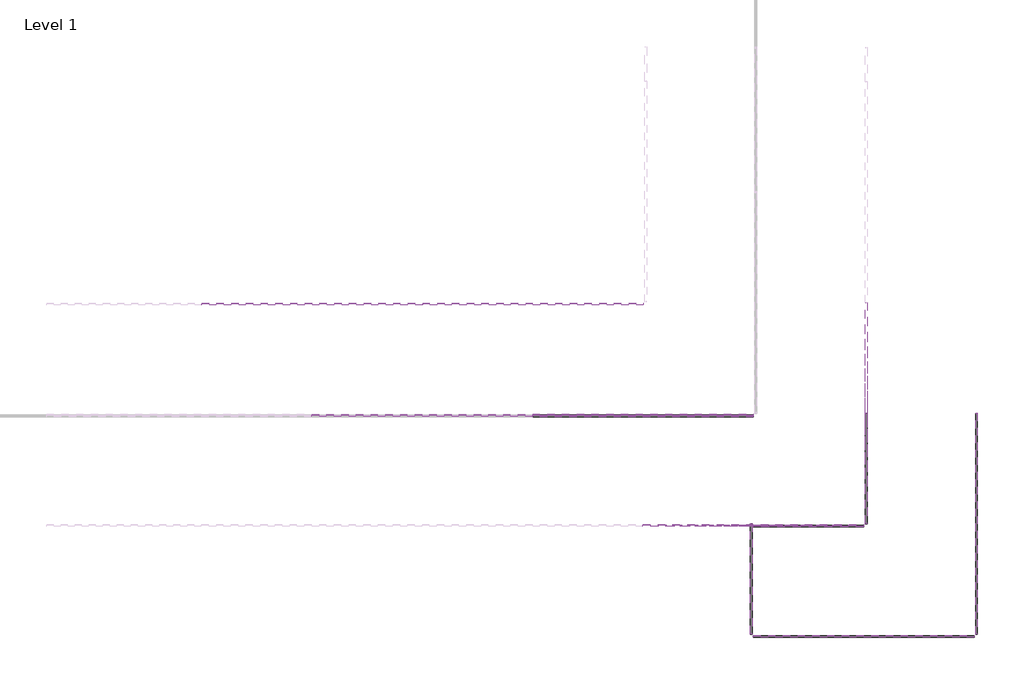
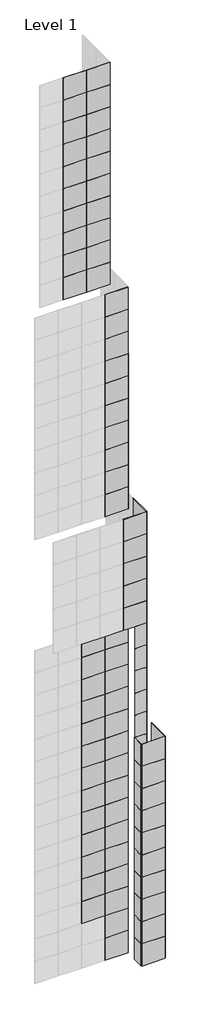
# One storey, part 6 of 15: 135 plates.
"""IFC4 building model written with IfcOpenShell, lengths in millimetres."""

from ifc_helpers import new_model, si_unit, origin, place, context, project, spatial, transform, mapped, element, save
from components import system_panel_glazed_9c75bc08, system_panel_glazed_0a0842ec, system_panel_glazed_aa64d645, system_panel_glazed_b248394d

model = new_model("IFC4")

# Units and contexts
model_context = context("Model", 3, world=origin())
ifc_project = project(units=[si_unit("LENGTHUNIT", "METRE", prefix="MILLI")], contexts=[model_context])

# Site, building, storey
site = spatial("IfcSite", under=ifc_project)
building = spatial("IfcBuilding", under=site)
storey = spatial("IfcBuildingStorey", under=building, Name="Level 1", Elevation=0.0)

# Plates
placement = place(None, origin())
system_panel_glazed_shape = system_panel_glazed_9c75bc08(model_context)
element("IfcPlate", 1, ObjectType="System Panel : Glazed", at=placement, inside=storey, context=model_context, shape_type="MappedRepresentation", body=[
    mapped(system_panel_glazed_shape, transform((51834.2903978, -4602.9095598, 0.0), x_axis=(0.0, 1.0, 0.0), y_axis=(-1.0, 0.0, 0.0), z_axis=(0.0, 0.0, 1.0))),
])
element("IfcPlate", 2, ObjectType="System Panel : Glazed", at=placement, inside=storey, context=model_context, shape_type="MappedRepresentation", body=[
    mapped(system_panel_glazed_shape, transform((51834.2903978, -4602.9095598, 3048.0), x_axis=(0.0, 1.0, 0.0), y_axis=(-1.0, 0.0, 0.0), z_axis=(0.0, 0.0, 1.0))),
])
element("IfcPlate", 3, ObjectType="System Panel : Glazed", at=placement, inside=storey, context=model_context, shape_type="MappedRepresentation", body=[
    mapped(system_panel_glazed_shape, transform((51834.2903978, -4602.9095598, 6096.0), x_axis=(0.0, 1.0, 0.0), y_axis=(-1.0, 0.0, 0.0), z_axis=(0.0, 0.0, 1.0))),
])
element("IfcPlate", 4, ObjectType="System Panel : Glazed", at=placement, inside=storey, context=model_context, shape_type="MappedRepresentation", body=[
    mapped(system_panel_glazed_shape, transform((51834.2903978, -4602.9095598, 9144.0), x_axis=(0.0, 1.0, 0.0), y_axis=(-1.0, 0.0, 0.0), z_axis=(0.0, 0.0, 1.0))),
])
element("IfcPlate", 5, ObjectType="System Panel : Glazed", at=placement, inside=storey, context=model_context, shape_type="MappedRepresentation", body=[
    mapped(system_panel_glazed_shape, transform((51834.2903978, -4602.9095598, 12192.0), x_axis=(0.0, 1.0, 0.0), y_axis=(-1.0, 0.0, 0.0), z_axis=(0.0, 0.0, 1.0))),
])
element("IfcPlate", 6, ObjectType="System Panel : Glazed", at=placement, inside=storey, context=model_context, shape_type="MappedRepresentation", body=[
    mapped(system_panel_glazed_shape, transform((51834.2903978, -4602.9095598, 15240.0), x_axis=(0.0, 1.0, 0.0), y_axis=(-1.0, 0.0, 0.0), z_axis=(0.0, 0.0, 1.0))),
])
element("IfcPlate", 7, ObjectType="System Panel : Glazed", at=placement, inside=storey, context=model_context, shape_type="MappedRepresentation", body=[
    mapped(system_panel_glazed_shape, transform((51834.2903978, -4602.9095598, 18288.0), x_axis=(0.0, 1.0, 0.0), y_axis=(-1.0, 0.0, 0.0), z_axis=(0.0, 0.0, 1.0))),
])
element("IfcPlate", 8, ObjectType="System Panel : Glazed", at=placement, inside=storey, context=model_context, shape_type="MappedRepresentation", body=[
    mapped(system_panel_glazed_shape, transform((51834.2903978, -4602.9095598, 21336.0), x_axis=(0.0, 1.0, 0.0), y_axis=(-1.0, 0.0, 0.0), z_axis=(0.0, 0.0, 1.0))),
])
element("IfcPlate", 9, ObjectType="System Panel : Glazed", at=placement, inside=storey, context=model_context, shape_type="MappedRepresentation", body=[
    mapped(system_panel_glazed_shape, transform((51834.2903978, -4602.9095598, 24384.0), x_axis=(0.0, 1.0, 0.0), y_axis=(-1.0, 0.0, 0.0), z_axis=(0.0, 0.0, 1.0))),
])
element("IfcPlate", 10, ObjectType="System Panel : Glazed", at=placement, inside=storey, context=model_context, shape_type="MappedRepresentation", body=[
    mapped(system_panel_glazed_shape, transform((51834.2903978, -4602.9095598, 27432.0), x_axis=(0.0, 1.0, 0.0), y_axis=(-1.0, 0.0, 0.0), z_axis=(0.0, 0.0, 1.0))),
])
element("IfcPlate", 11, ObjectType="System Panel : Glazed", at=placement, inside=storey, context=model_context, shape_type="MappedRepresentation", body=[
    mapped(system_panel_glazed_shape, transform((51834.2903978, -4602.9095598, 30480.0), x_axis=(0.0, 1.0, 0.0), y_axis=(-1.0, 0.0, 0.0), z_axis=(0.0, 0.0, 1.0))),
])
element("IfcPlate", 12, ObjectType="System Panel : Glazed", at=placement, inside=storey, context=model_context, shape_type="MappedRepresentation", body=[
    mapped(system_panel_glazed_shape, transform((51834.2903978, -4602.9095598, 33528.0), x_axis=(0.0, 1.0, 0.0), y_axis=(-1.0, 0.0, 0.0), z_axis=(0.0, 0.0, 1.0))),
])
element("IfcPlate", 13, ObjectType="System Panel : Glazed", at=placement, inside=storey, context=model_context, shape_type="MappedRepresentation", body=[
    mapped(system_panel_glazed_shape, transform((51834.2903978, -4602.9095598, 36576.0), x_axis=(0.0, 1.0, 0.0), y_axis=(-1.0, 0.0, 0.0), z_axis=(0.0, 0.0, 1.0))),
])
element("IfcPlate", 14, ObjectType="System Panel : Glazed", at=placement, inside=storey, context=model_context, shape_type="MappedRepresentation", body=[
    mapped(system_panel_glazed_shape, transform((51834.2903978, -4602.9095598, 39624.0), x_axis=(0.0, 1.0, 0.0), y_axis=(-1.0, 0.0, 0.0), z_axis=(0.0, 0.0, 1.0))),
])
element("IfcPlate", 15, ObjectType="System Panel : Glazed", at=placement, inside=storey, context=model_context, shape_type="MappedRepresentation", body=[
    mapped(system_panel_glazed_shape, transform((51834.2903978, -4602.9095598, 42672.0), x_axis=(0.0, 1.0, 0.0), y_axis=(-1.0, 0.0, 0.0), z_axis=(0.0, 0.0, 1.0))),
])
element("IfcPlate", 16, ObjectType="System Panel : Glazed", at=placement, inside=storey, context=model_context, shape_type="MappedRepresentation", body=[
    mapped(system_panel_glazed_shape, transform((51072.2903978, -5364.9095598, 0.0), x_axis=(1.0, 0.0, 0.0), y_axis=(0.0, 1.0, 0.0), z_axis=(0.0, 0.0, 1.0))),
])
element("IfcPlate", 17, ObjectType="System Panel : Glazed", at=placement, inside=storey, context=model_context, shape_type="MappedRepresentation", body=[
    mapped(system_panel_glazed_shape, transform((51072.2903978, -5364.9095598, 3048.0), x_axis=(1.0, 0.0, 0.0), y_axis=(0.0, 1.0, 0.0), z_axis=(0.0, 0.0, 1.0))),
])
element("IfcPlate", 18, ObjectType="System Panel : Glazed", at=placement, inside=storey, context=model_context, shape_type="MappedRepresentation", body=[
    mapped(system_panel_glazed_shape, transform((51072.2903978, -5364.9095598, 6096.0), x_axis=(1.0, 0.0, 0.0), y_axis=(0.0, 1.0, 0.0), z_axis=(0.0, 0.0, 1.0))),
])
element("IfcPlate", 19, ObjectType="System Panel : Glazed", at=placement, inside=storey, context=model_context, shape_type="MappedRepresentation", body=[
    mapped(system_panel_glazed_shape, transform((51072.2903978, -5364.9095598, 9144.0), x_axis=(1.0, 0.0, 0.0), y_axis=(0.0, 1.0, 0.0), z_axis=(0.0, 0.0, 1.0))),
])
element("IfcPlate", 20, ObjectType="System Panel : Glazed", at=placement, inside=storey, context=model_context, shape_type="MappedRepresentation", body=[
    mapped(system_panel_glazed_shape, transform((51072.2903978, -5364.9095598, 12192.0), x_axis=(1.0, 0.0, 0.0), y_axis=(0.0, 1.0, 0.0), z_axis=(0.0, 0.0, 1.0))),
])
element("IfcPlate", 21, ObjectType="System Panel : Glazed", at=placement, inside=storey, context=model_context, shape_type="MappedRepresentation", body=[
    mapped(system_panel_glazed_shape, transform((51072.2903978, -5364.9095598, 15240.0), x_axis=(1.0, 0.0, 0.0), y_axis=(0.0, 1.0, 0.0), z_axis=(0.0, 0.0, 1.0))),
])
element("IfcPlate", 22, ObjectType="System Panel : Glazed", at=placement, inside=storey, context=model_context, shape_type="MappedRepresentation", body=[
    mapped(system_panel_glazed_shape, transform((51072.2903978, -5364.9095598, 18288.0), x_axis=(1.0, 0.0, 0.0), y_axis=(0.0, 1.0, 0.0), z_axis=(0.0, 0.0, 1.0))),
])
element("IfcPlate", 23, ObjectType="System Panel : Glazed", at=placement, inside=storey, context=model_context, shape_type="MappedRepresentation", body=[
    mapped(system_panel_glazed_shape, transform((51072.2903978, -5364.9095598, 21336.0), x_axis=(1.0, 0.0, 0.0), y_axis=(0.0, 1.0, 0.0), z_axis=(0.0, 0.0, 1.0))),
])
element("IfcPlate", 24, ObjectType="System Panel : Glazed", at=placement, inside=storey, context=model_context, shape_type="MappedRepresentation", body=[
    mapped(system_panel_glazed_shape, transform((51072.2903978, -5364.9095598, 24384.0), x_axis=(1.0, 0.0, 0.0), y_axis=(0.0, 1.0, 0.0), z_axis=(0.0, 0.0, 1.0))),
])
element("IfcPlate", 25, ObjectType="System Panel : Glazed", at=placement, inside=storey, context=model_context, shape_type="MappedRepresentation", body=[
    mapped(system_panel_glazed_shape, transform((51072.2903978, -5364.9095598, 27432.0), x_axis=(1.0, 0.0, 0.0), y_axis=(0.0, 1.0, 0.0), z_axis=(0.0, 0.0, 1.0))),
])
element("IfcPlate", 26, ObjectType="System Panel : Glazed", at=placement, inside=storey, context=model_context, shape_type="MappedRepresentation", body=[
    mapped(system_panel_glazed_shape, transform((51072.2903978, -5364.9095598, 30480.0), x_axis=(1.0, 0.0, 0.0), y_axis=(0.0, 1.0, 0.0), z_axis=(0.0, 0.0, 1.0))),
])
element("IfcPlate", 27, ObjectType="System Panel : Glazed", at=placement, inside=storey, context=model_context, shape_type="MappedRepresentation", body=[
    mapped(system_panel_glazed_shape, transform((51072.2903978, -5364.9095598, 33528.0), x_axis=(1.0, 0.0, 0.0), y_axis=(0.0, 1.0, 0.0), z_axis=(0.0, 0.0, 1.0))),
])
element("IfcPlate", 28, ObjectType="System Panel : Glazed", at=placement, inside=storey, context=model_context, shape_type="MappedRepresentation", body=[
    mapped(system_panel_glazed_shape, transform((51072.2903978, -5364.9095598, 36576.0), x_axis=(1.0, 0.0, 0.0), y_axis=(0.0, 1.0, 0.0), z_axis=(0.0, 0.0, 1.0))),
])
element("IfcPlate", 29, ObjectType="System Panel : Glazed", at=placement, inside=storey, context=model_context, shape_type="MappedRepresentation", body=[
    mapped(system_panel_glazed_shape, transform((51072.2903978, -5364.9095598, 39624.0), x_axis=(1.0, 0.0, 0.0), y_axis=(0.0, 1.0, 0.0), z_axis=(0.0, 0.0, 1.0))),
])
element("IfcPlate", 30, ObjectType="System Panel : Glazed", at=placement, inside=storey, context=model_context, shape_type="MappedRepresentation", body=[
    mapped(system_panel_glazed_shape, transform((51072.2903978, -5364.9095598, 42672.0), x_axis=(1.0, 0.0, 0.0), y_axis=(0.0, 1.0, 0.0), z_axis=(0.0, 0.0, 1.0))),
])
element("IfcPlate", 31, ObjectType="System Panel : Glazed", at=placement, inside=storey, context=model_context, shape_type="MappedRepresentation", body=[
    mapped(system_panel_glazed_shape, transform((50310.2903978, -6126.9095598, 0.0), x_axis=(0.0, -1.0, 0.0), y_axis=(1.0, 0.0, 0.0), z_axis=(0.0, 0.0, 1.0))),
])
element("IfcPlate", 32, ObjectType="System Panel : Glazed", at=placement, inside=storey, context=model_context, shape_type="MappedRepresentation", body=[
    mapped(system_panel_glazed_shape, transform((50310.2903978, -6126.9095598, 3048.0), x_axis=(0.0, -1.0, 0.0), y_axis=(1.0, 0.0, 0.0), z_axis=(0.0, 0.0, 1.0))),
])
element("IfcPlate", 33, ObjectType="System Panel : Glazed", at=placement, inside=storey, context=model_context, shape_type="MappedRepresentation", body=[
    mapped(system_panel_glazed_shape, transform((50310.2903978, -6126.9095598, 6096.0), x_axis=(0.0, -1.0, 0.0), y_axis=(1.0, 0.0, 0.0), z_axis=(0.0, 0.0, 1.0))),
])
element("IfcPlate", 34, ObjectType="System Panel : Glazed", at=placement, inside=storey, context=model_context, shape_type="MappedRepresentation", body=[
    mapped(system_panel_glazed_shape, transform((50310.2903978, -6126.9095598, 9144.0), x_axis=(0.0, -1.0, 0.0), y_axis=(1.0, 0.0, 0.0), z_axis=(0.0, 0.0, 1.0))),
])
element("IfcPlate", 35, ObjectType="System Panel : Glazed", at=placement, inside=storey, context=model_context, shape_type="MappedRepresentation", body=[
    mapped(system_panel_glazed_shape, transform((50310.2903978, -6126.9095598, 12192.0), x_axis=(0.0, -1.0, 0.0), y_axis=(1.0, 0.0, 0.0), z_axis=(0.0, 0.0, 1.0))),
])
element("IfcPlate", 36, ObjectType="System Panel : Glazed", at=placement, inside=storey, context=model_context, shape_type="MappedRepresentation", body=[
    mapped(system_panel_glazed_shape, transform((50310.2903978, -6126.9095598, 15240.0), x_axis=(0.0, -1.0, 0.0), y_axis=(1.0, 0.0, 0.0), z_axis=(0.0, 0.0, 1.0))),
])
element("IfcPlate", 37, ObjectType="System Panel : Glazed", at=placement, inside=storey, context=model_context, shape_type="MappedRepresentation", body=[
    mapped(system_panel_glazed_shape, transform((50310.2903978, -6126.9095598, 18288.0), x_axis=(0.0, -1.0, 0.0), y_axis=(1.0, 0.0, 0.0), z_axis=(0.0, 0.0, 1.0))),
])
element("IfcPlate", 38, ObjectType="System Panel : Glazed", at=placement, inside=storey, context=model_context, shape_type="MappedRepresentation", body=[
    mapped(system_panel_glazed_shape, transform((50310.2903978, -6126.9095598, 21336.0), x_axis=(0.0, -1.0, 0.0), y_axis=(1.0, 0.0, 0.0), z_axis=(0.0, 0.0, 1.0))),
])
element("IfcPlate", 39, ObjectType="System Panel : Glazed", at=placement, inside=storey, context=model_context, shape_type="MappedRepresentation", body=[
    mapped(system_panel_glazed_shape, transform((50310.2903978, -6126.9095598, 24384.0), x_axis=(0.0, -1.0, 0.0), y_axis=(1.0, 0.0, 0.0), z_axis=(0.0, 0.0, 1.0))),
])
element("IfcPlate", 40, ObjectType="System Panel : Glazed", at=placement, inside=storey, context=model_context, shape_type="MappedRepresentation", body=[
    mapped(system_panel_glazed_shape, transform((50310.2903978, -6126.9095598, 27432.0), x_axis=(0.0, -1.0, 0.0), y_axis=(1.0, 0.0, 0.0), z_axis=(0.0, 0.0, 1.0))),
])
system_panel_glazed_2_shape = system_panel_glazed_0a0842ec(model_context)
element("IfcPlate", 41, ObjectType="System Panel : Glazed", at=placement, inside=storey, context=model_context, shape_type="MappedRepresentation", body=[
    mapped(system_panel_glazed_2_shape, transform((51834.2903978, -3840.9095598, 45720.0), x_axis=(0.0, 1.0, 0.0), y_axis=(-1.0, 0.0, 0.0), z_axis=(0.0, 0.0, 1.0))),
])
element("IfcPlate", 42, ObjectType="System Panel : Glazed", at=placement, inside=storey, context=model_context, shape_type="MappedRepresentation", body=[
    mapped(system_panel_glazed_2_shape, transform((50310.2903978, -5364.9095598, 45720.0), x_axis=(1.0, 0.0, 0.0), y_axis=(0.0, 1.0, 0.0), z_axis=(0.0, 0.0, 1.0))),
])
system_panel_glazed_3_shape = system_panel_glazed_aa64d645(model_context)
element("IfcPlate", 43, ObjectType="System Panel : Glazed", at=placement, inside=storey, context=model_context, shape_type="MappedRepresentation", body=[
    mapped(system_panel_glazed_3_shape, transform((51834.2903978, -3840.9095598, 48768.0), x_axis=(0.0, 1.0, 0.0), y_axis=(-1.0, 0.0, 0.0), z_axis=(0.0, 0.0, 1.0))),
])
element("IfcPlate", 44, ObjectType="System Panel : Glazed", at=placement, inside=storey, context=model_context, shape_type="MappedRepresentation", body=[
    mapped(system_panel_glazed_3_shape, transform((51834.2903978, -3840.9095598, 51816.0), x_axis=(0.0, 1.0, 0.0), y_axis=(-1.0, 0.0, 0.0), z_axis=(0.0, 0.0, 1.0))),
])
element("IfcPlate", 45, ObjectType="System Panel : Glazed", at=placement, inside=storey, context=model_context, shape_type="MappedRepresentation", body=[
    mapped(system_panel_glazed_3_shape, transform((51834.2903978, -3840.9095598, 54864.0), x_axis=(0.0, 1.0, 0.0), y_axis=(-1.0, 0.0, 0.0), z_axis=(0.0, 0.0, 1.0))),
])
element("IfcPlate", 46, ObjectType="System Panel : Glazed", at=placement, inside=storey, context=model_context, shape_type="MappedRepresentation", body=[
    mapped(system_panel_glazed_3_shape, transform((51834.2903978, -3840.9095598, 57912.0), x_axis=(0.0, 1.0, 0.0), y_axis=(-1.0, 0.0, 0.0), z_axis=(0.0, 0.0, 1.0))),
])
element("IfcPlate", 47, ObjectType="System Panel : Glazed", at=placement, inside=storey, context=model_context, shape_type="MappedRepresentation", body=[
    mapped(system_panel_glazed_3_shape, transform((50310.2903978, -5364.9095598, 48768.0), x_axis=(1.0, 0.0, 0.0), y_axis=(0.0, 1.0, 0.0), z_axis=(0.0, 0.0, 1.0))),
])
element("IfcPlate", 48, ObjectType="System Panel : Glazed", at=placement, inside=storey, context=model_context, shape_type="MappedRepresentation", body=[
    mapped(system_panel_glazed_3_shape, transform((50310.2903978, -5364.9095598, 51816.0), x_axis=(1.0, 0.0, 0.0), y_axis=(0.0, 1.0, 0.0), z_axis=(0.0, 0.0, 1.0))),
])
element("IfcPlate", 49, ObjectType="System Panel : Glazed", at=placement, inside=storey, context=model_context, shape_type="MappedRepresentation", body=[
    mapped(system_panel_glazed_3_shape, transform((50310.2903978, -5364.9095598, 54864.0), x_axis=(1.0, 0.0, 0.0), y_axis=(0.0, 1.0, 0.0), z_axis=(0.0, 0.0, 1.0))),
])
element("IfcPlate", 50, ObjectType="System Panel : Glazed", at=placement, inside=storey, context=model_context, shape_type="MappedRepresentation", body=[
    mapped(system_panel_glazed_3_shape, transform((50310.2903978, -5364.9095598, 57912.0), x_axis=(1.0, 0.0, 0.0), y_axis=(0.0, 1.0, 0.0), z_axis=(0.0, 0.0, 1.0))),
])
element("IfcPlate", 51, ObjectType="System Panel : Glazed", at=placement, inside=storey, context=model_context, shape_type="MappedRepresentation", body=[
    mapped(system_panel_glazed_3_shape, transform((50310.2903978, -2316.9095598, 60960.0), x_axis=(0.0, 1.0, 0.0), y_axis=(-1.0, 0.0, 0.0), z_axis=(0.0, 0.0, 1.0))),
])
element("IfcPlate", 52, ObjectType="System Panel : Glazed", at=placement, inside=storey, context=model_context, shape_type="MappedRepresentation", body=[
    mapped(system_panel_glazed_3_shape, transform((50310.2903978, -2316.9095598, 64008.0), x_axis=(0.0, 1.0, 0.0), y_axis=(-1.0, 0.0, 0.0), z_axis=(0.0, 0.0, 1.0))),
])
element("IfcPlate", 53, ObjectType="System Panel : Glazed", at=placement, inside=storey, context=model_context, shape_type="MappedRepresentation", body=[
    mapped(system_panel_glazed_3_shape, transform((50310.2903978, -2316.9095598, 67056.0), x_axis=(0.0, 1.0, 0.0), y_axis=(-1.0, 0.0, 0.0), z_axis=(0.0, 0.0, 1.0))),
])
element("IfcPlate", 54, ObjectType="System Panel : Glazed", at=placement, inside=storey, context=model_context, shape_type="MappedRepresentation", body=[
    mapped(system_panel_glazed_3_shape, transform((50310.2903978, -2316.9095598, 70104.0), x_axis=(0.0, 1.0, 0.0), y_axis=(-1.0, 0.0, 0.0), z_axis=(0.0, 0.0, 1.0))),
])
element("IfcPlate", 55, ObjectType="System Panel : Glazed", at=placement, inside=storey, context=model_context, shape_type="MappedRepresentation", body=[
    mapped(system_panel_glazed_3_shape, transform((50310.2903978, -2316.9095598, 73152.0), x_axis=(0.0, 1.0, 0.0), y_axis=(-1.0, 0.0, 0.0), z_axis=(0.0, 0.0, 1.0))),
])
element("IfcPlate", 56, ObjectType="System Panel : Glazed", at=placement, inside=storey, context=model_context, shape_type="MappedRepresentation", body=[
    mapped(system_panel_glazed_3_shape, transform((50310.2903978, -2316.9095598, 76200.0), x_axis=(0.0, 1.0, 0.0), y_axis=(-1.0, 0.0, 0.0), z_axis=(0.0, 0.0, 1.0))),
])
element("IfcPlate", 57, ObjectType="System Panel : Glazed", at=placement, inside=storey, context=model_context, shape_type="MappedRepresentation", body=[
    mapped(system_panel_glazed_3_shape, transform((50310.2903978, -2316.9095598, 79248.0), x_axis=(0.0, 1.0, 0.0), y_axis=(-1.0, 0.0, 0.0), z_axis=(0.0, 0.0, 1.0))),
])
element("IfcPlate", 58, ObjectType="System Panel : Glazed", at=placement, inside=storey, context=model_context, shape_type="MappedRepresentation", body=[
    mapped(system_panel_glazed_3_shape, transform((48786.2903978, -3840.9095598, 60960.0), x_axis=(1.0, 0.0, 0.0), y_axis=(0.0, 1.0, 0.0), z_axis=(0.0, 0.0, 1.0))),
])
element("IfcPlate", 59, ObjectType="System Panel : Glazed", at=placement, inside=storey, context=model_context, shape_type="MappedRepresentation", body=[
    mapped(system_panel_glazed_3_shape, transform((48786.2903978, -3840.9095598, 64008.0), x_axis=(1.0, 0.0, 0.0), y_axis=(0.0, 1.0, 0.0), z_axis=(0.0, 0.0, 1.0))),
])
element("IfcPlate", 60, ObjectType="System Panel : Glazed", at=placement, inside=storey, context=model_context, shape_type="MappedRepresentation", body=[
    mapped(system_panel_glazed_3_shape, transform((48786.2903978, -3840.9095598, 67056.0), x_axis=(1.0, 0.0, 0.0), y_axis=(0.0, 1.0, 0.0), z_axis=(0.0, 0.0, 1.0))),
])
element("IfcPlate", 61, ObjectType="System Panel : Glazed", at=placement, inside=storey, context=model_context, shape_type="MappedRepresentation", body=[
    mapped(system_panel_glazed_3_shape, transform((48786.2903978, -3840.9095598, 70104.0), x_axis=(1.0, 0.0, 0.0), y_axis=(0.0, 1.0, 0.0), z_axis=(0.0, 0.0, 1.0))),
])
element("IfcPlate", 62, ObjectType="System Panel : Glazed", at=placement, inside=storey, context=model_context, shape_type="MappedRepresentation", body=[
    mapped(system_panel_glazed_3_shape, transform((48786.2903978, -3840.9095598, 73152.0), x_axis=(1.0, 0.0, 0.0), y_axis=(0.0, 1.0, 0.0), z_axis=(0.0, 0.0, 1.0))),
])
element("IfcPlate", 63, ObjectType="System Panel : Glazed", at=placement, inside=storey, context=model_context, shape_type="MappedRepresentation", body=[
    mapped(system_panel_glazed_3_shape, transform((48786.2903978, -3840.9095598, 76200.0), x_axis=(1.0, 0.0, 0.0), y_axis=(0.0, 1.0, 0.0), z_axis=(0.0, 0.0, 1.0))),
])
element("IfcPlate", 64, ObjectType="System Panel : Glazed", at=placement, inside=storey, context=model_context, shape_type="MappedRepresentation", body=[
    mapped(system_panel_glazed_3_shape, transform((48786.2903978, -3840.9095598, 79248.0), x_axis=(1.0, 0.0, 0.0), y_axis=(0.0, 1.0, 0.0), z_axis=(0.0, 0.0, 1.0))),
])
element("IfcPlate", 65, ObjectType="System Panel : Glazed", at=placement, inside=storey, context=model_context, shape_type="MappedRepresentation", body=[
    mapped(system_panel_glazed_3_shape, transform((48786.2903978, -3840.9095598, 82296.0), x_axis=(1.0, 0.0, 0.0), y_axis=(0.0, 1.0, 0.0), z_axis=(0.0, 0.0, 1.0))),
])
element("IfcPlate", 66, ObjectType="System Panel : Glazed", at=placement, inside=storey, context=model_context, shape_type="MappedRepresentation", body=[
    mapped(system_panel_glazed_3_shape, transform((48786.2903978, -3840.9095598, 85344.0), x_axis=(1.0, 0.0, 0.0), y_axis=(0.0, 1.0, 0.0), z_axis=(0.0, 0.0, 1.0))),
])
element("IfcPlate", 67, ObjectType="System Panel : Glazed", at=placement, inside=storey, context=model_context, shape_type="MappedRepresentation", body=[
    mapped(system_panel_glazed_3_shape, transform((48786.2903978, -3840.9095598, 88392.0), x_axis=(1.0, 0.0, 0.0), y_axis=(0.0, 1.0, 0.0), z_axis=(0.0, 0.0, 1.0))),
])
element("IfcPlate", 68, ObjectType="System Panel : Glazed", at=placement, inside=storey, context=model_context, shape_type="MappedRepresentation", body=[
    mapped(system_panel_glazed_3_shape, transform((44219.8576677, -2316.9095598, 91440.0), x_axis=(1.0, 0.0, 0.0), y_axis=(0.0, 1.0, 0.0), z_axis=(0.0, 0.0, 1.0))),
])
element("IfcPlate", 69, ObjectType="System Panel : Glazed", at=placement, inside=storey, context=model_context, shape_type="MappedRepresentation", body=[
    mapped(system_panel_glazed_3_shape, transform((47267.8576677, -2316.9095598, 91440.0), x_axis=(1.0, 0.0, 0.0), y_axis=(0.0, 1.0, 0.0), z_axis=(0.0, 0.0, 1.0))),
])
element("IfcPlate", 70, ObjectType="System Panel : Glazed", at=placement, inside=storey, context=model_context, shape_type="MappedRepresentation", body=[
    mapped(system_panel_glazed_3_shape, transform((44219.8576677, -2316.9095598, 94488.0), x_axis=(1.0, 0.0, 0.0), y_axis=(0.0, 1.0, 0.0), z_axis=(0.0, 0.0, 1.0))),
])
element("IfcPlate", 71, ObjectType="System Panel : Glazed", at=placement, inside=storey, context=model_context, shape_type="MappedRepresentation", body=[
    mapped(system_panel_glazed_3_shape, transform((47267.8576677, -2316.9095598, 94488.0), x_axis=(1.0, 0.0, 0.0), y_axis=(0.0, 1.0, 0.0), z_axis=(0.0, 0.0, 1.0))),
])
element("IfcPlate", 72, ObjectType="System Panel : Glazed", at=placement, inside=storey, context=model_context, shape_type="MappedRepresentation", body=[
    mapped(system_panel_glazed_3_shape, transform((44219.8576677, -2316.9095598, 97536.0), x_axis=(1.0, 0.0, 0.0), y_axis=(0.0, 1.0, 0.0), z_axis=(0.0, 0.0, 1.0))),
])
element("IfcPlate", 73, ObjectType="System Panel : Glazed", at=placement, inside=storey, context=model_context, shape_type="MappedRepresentation", body=[
    mapped(system_panel_glazed_3_shape, transform((47267.8576677, -2316.9095598, 97536.0), x_axis=(1.0, 0.0, 0.0), y_axis=(0.0, 1.0, 0.0), z_axis=(0.0, 0.0, 1.0))),
])
element("IfcPlate", 74, ObjectType="System Panel : Glazed", at=placement, inside=storey, context=model_context, shape_type="MappedRepresentation", body=[
    mapped(system_panel_glazed_3_shape, transform((44219.8576677, -2316.9095598, 100584.0), x_axis=(1.0, 0.0, 0.0), y_axis=(0.0, 1.0, 0.0), z_axis=(0.0, 0.0, 1.0))),
])
element("IfcPlate", 75, ObjectType="System Panel : Glazed", at=placement, inside=storey, context=model_context, shape_type="MappedRepresentation", body=[
    mapped(system_panel_glazed_3_shape, transform((47267.8576677, -2316.9095598, 100584.0), x_axis=(1.0, 0.0, 0.0), y_axis=(0.0, 1.0, 0.0), z_axis=(0.0, 0.0, 1.0))),
])
element("IfcPlate", 76, ObjectType="System Panel : Glazed", at=placement, inside=storey, context=model_context, shape_type="MappedRepresentation", body=[
    mapped(system_panel_glazed_3_shape, transform((44219.8576677, -2316.9095598, 103632.0), x_axis=(1.0, 0.0, 0.0), y_axis=(0.0, 1.0, 0.0), z_axis=(0.0, 0.0, 1.0))),
])
element("IfcPlate", 77, ObjectType="System Panel : Glazed", at=placement, inside=storey, context=model_context, shape_type="MappedRepresentation", body=[
    mapped(system_panel_glazed_3_shape, transform((47267.8576677, -2316.9095598, 103632.0), x_axis=(1.0, 0.0, 0.0), y_axis=(0.0, 1.0, 0.0), z_axis=(0.0, 0.0, 1.0))),
])
element("IfcPlate", 78, ObjectType="System Panel : Glazed", at=placement, inside=storey, context=model_context, shape_type="MappedRepresentation", body=[
    mapped(system_panel_glazed_3_shape, transform((44219.8576677, -2316.9095598, 106680.0), x_axis=(1.0, 0.0, 0.0), y_axis=(0.0, 1.0, 0.0), z_axis=(0.0, 0.0, 1.0))),
])
element("IfcPlate", 79, ObjectType="System Panel : Glazed", at=placement, inside=storey, context=model_context, shape_type="MappedRepresentation", body=[
    mapped(system_panel_glazed_3_shape, transform((47267.8576677, -2316.9095598, 106680.0), x_axis=(1.0, 0.0, 0.0), y_axis=(0.0, 1.0, 0.0), z_axis=(0.0, 0.0, 1.0))),
])
element("IfcPlate", 80, ObjectType="System Panel : Glazed", at=placement, inside=storey, context=model_context, shape_type="MappedRepresentation", body=[
    mapped(system_panel_glazed_3_shape, transform((44219.8576677, -2316.9095598, 109728.0), x_axis=(1.0, 0.0, 0.0), y_axis=(0.0, 1.0, 0.0), z_axis=(0.0, 0.0, 1.0))),
])
element("IfcPlate", 81, ObjectType="System Panel : Glazed", at=placement, inside=storey, context=model_context, shape_type="MappedRepresentation", body=[
    mapped(system_panel_glazed_3_shape, transform((47267.8576677, -2316.9095598, 109728.0), x_axis=(1.0, 0.0, 0.0), y_axis=(0.0, 1.0, 0.0), z_axis=(0.0, 0.0, 1.0))),
])
element("IfcPlate", 82, ObjectType="System Panel : Glazed", at=placement, inside=storey, context=model_context, shape_type="MappedRepresentation", body=[
    mapped(system_panel_glazed_3_shape, transform((44219.8576677, -2316.9095598, 112776.0), x_axis=(1.0, 0.0, 0.0), y_axis=(0.0, 1.0, 0.0), z_axis=(0.0, 0.0, 1.0))),
])
element("IfcPlate", 83, ObjectType="System Panel : Glazed", at=placement, inside=storey, context=model_context, shape_type="MappedRepresentation", body=[
    mapped(system_panel_glazed_3_shape, transform((47267.8576677, -2316.9095598, 112776.0), x_axis=(1.0, 0.0, 0.0), y_axis=(0.0, 1.0, 0.0), z_axis=(0.0, 0.0, 1.0))),
])
element("IfcPlate", 84, ObjectType="System Panel : Glazed", at=placement, inside=storey, context=model_context, shape_type="MappedRepresentation", body=[
    mapped(system_panel_glazed_3_shape, transform((44219.8576677, -2316.9095598, 115824.0), x_axis=(1.0, 0.0, 0.0), y_axis=(0.0, 1.0, 0.0), z_axis=(0.0, 0.0, 1.0))),
])
element("IfcPlate", 85, ObjectType="System Panel : Glazed", at=placement, inside=storey, context=model_context, shape_type="MappedRepresentation", body=[
    mapped(system_panel_glazed_3_shape, transform((47267.8576677, -2316.9095598, 115824.0), x_axis=(1.0, 0.0, 0.0), y_axis=(0.0, 1.0, 0.0), z_axis=(0.0, 0.0, 1.0))),
])
element("IfcPlate", 86, ObjectType="System Panel : Glazed", at=placement, inside=storey, context=model_context, shape_type="MappedRepresentation", body=[
    mapped(system_panel_glazed_3_shape, transform((44219.8576677, -2316.9095598, 118872.0), x_axis=(1.0, 0.0, 0.0), y_axis=(0.0, 1.0, 0.0), z_axis=(0.0, 0.0, 1.0))),
])
element("IfcPlate", 87, ObjectType="System Panel : Glazed", at=placement, inside=storey, context=model_context, shape_type="MappedRepresentation", body=[
    mapped(system_panel_glazed_3_shape, transform((47267.8576677, -2316.9095598, 118872.0), x_axis=(1.0, 0.0, 0.0), y_axis=(0.0, 1.0, 0.0), z_axis=(0.0, 0.0, 1.0))),
])
element("IfcPlate", 88, ObjectType="System Panel : Glazed", at=placement, inside=storey, context=model_context, shape_type="MappedRepresentation", body=[
    mapped(system_panel_glazed_3_shape, transform((53358.2903978, -5364.9095598, 0.0), x_axis=(0.0, 1.0, 0.0), y_axis=(-1.0, 0.0, 0.0), z_axis=(0.0, 0.0, 1.0))),
])
element("IfcPlate", 89, ObjectType="System Panel : Glazed", at=placement, inside=storey, context=model_context, shape_type="MappedRepresentation", body=[
    mapped(system_panel_glazed_3_shape, transform((53358.2903978, -5364.9095598, 3048.0), x_axis=(0.0, 1.0, 0.0), y_axis=(-1.0, 0.0, 0.0), z_axis=(0.0, 0.0, 1.0))),
])
element("IfcPlate", 90, ObjectType="System Panel : Glazed", at=placement, inside=storey, context=model_context, shape_type="MappedRepresentation", body=[
    mapped(system_panel_glazed_3_shape, transform((53358.2903978, -5364.9095598, 6096.0), x_axis=(0.0, 1.0, 0.0), y_axis=(-1.0, 0.0, 0.0), z_axis=(0.0, 0.0, 1.0))),
])
element("IfcPlate", 91, ObjectType="System Panel : Glazed", at=placement, inside=storey, context=model_context, shape_type="MappedRepresentation", body=[
    mapped(system_panel_glazed_3_shape, transform((53358.2903978, -5364.9095598, 9144.0), x_axis=(0.0, 1.0, 0.0), y_axis=(-1.0, 0.0, 0.0), z_axis=(0.0, 0.0, 1.0))),
])
element("IfcPlate", 92, ObjectType="System Panel : Glazed", at=placement, inside=storey, context=model_context, shape_type="MappedRepresentation", body=[
    mapped(system_panel_glazed_3_shape, transform((53358.2903978, -5364.9095598, 12192.0), x_axis=(0.0, 1.0, 0.0), y_axis=(-1.0, 0.0, 0.0), z_axis=(0.0, 0.0, 1.0))),
])
element("IfcPlate", 93, ObjectType="System Panel : Glazed", at=placement, inside=storey, context=model_context, shape_type="MappedRepresentation", body=[
    mapped(system_panel_glazed_3_shape, transform((53358.2903978, -5364.9095598, 15240.0), x_axis=(0.0, 1.0, 0.0), y_axis=(-1.0, 0.0, 0.0), z_axis=(0.0, 0.0, 1.0))),
])
element("IfcPlate", 94, ObjectType="System Panel : Glazed", at=placement, inside=storey, context=model_context, shape_type="MappedRepresentation", body=[
    mapped(system_panel_glazed_3_shape, transform((53358.2903978, -5364.9095598, 18288.0), x_axis=(0.0, 1.0, 0.0), y_axis=(-1.0, 0.0, 0.0), z_axis=(0.0, 0.0, 1.0))),
])
element("IfcPlate", 95, ObjectType="System Panel : Glazed", at=placement, inside=storey, context=model_context, shape_type="MappedRepresentation", body=[
    mapped(system_panel_glazed_3_shape, transform((53358.2903978, -5364.9095598, 21336.0), x_axis=(0.0, 1.0, 0.0), y_axis=(-1.0, 0.0, 0.0), z_axis=(0.0, 0.0, 1.0))),
])
element("IfcPlate", 96, ObjectType="System Panel : Glazed", at=placement, inside=storey, context=model_context, shape_type="MappedRepresentation", body=[
    mapped(system_panel_glazed_3_shape, transform((53358.2903978, -5364.9095598, 24384.0), x_axis=(0.0, 1.0, 0.0), y_axis=(-1.0, 0.0, 0.0), z_axis=(0.0, 0.0, 1.0))),
])
element("IfcPlate", 97, ObjectType="System Panel : Glazed", at=placement, inside=storey, context=model_context, shape_type="MappedRepresentation", body=[
    mapped(system_panel_glazed_3_shape, transform((53358.2903978, -5364.9095598, 27432.0), x_axis=(0.0, 1.0, 0.0), y_axis=(-1.0, 0.0, 0.0), z_axis=(0.0, 0.0, 1.0))),
])
element("IfcPlate", 98, ObjectType="System Panel : Glazed", at=placement, inside=storey, context=model_context, shape_type="MappedRepresentation", body=[
    mapped(system_panel_glazed_3_shape, transform((51834.2903978, -6888.9095598, 0.0), x_axis=(1.0, 0.0, 0.0), y_axis=(0.0, 1.0, 0.0), z_axis=(0.0, 0.0, 1.0))),
])
element("IfcPlate", 99, ObjectType="System Panel : Glazed", at=placement, inside=storey, context=model_context, shape_type="MappedRepresentation", body=[
    mapped(system_panel_glazed_3_shape, transform((51834.2903978, -6888.9095598, 3048.0), x_axis=(1.0, 0.0, 0.0), y_axis=(0.0, 1.0, 0.0), z_axis=(0.0, 0.0, 1.0))),
])
element("IfcPlate", 100, ObjectType="System Panel : Glazed", at=placement, inside=storey, context=model_context, shape_type="MappedRepresentation", body=[
    mapped(system_panel_glazed_3_shape, transform((51834.2903978, -6888.9095598, 6096.0), x_axis=(1.0, 0.0, 0.0), y_axis=(0.0, 1.0, 0.0), z_axis=(0.0, 0.0, 1.0))),
])
element("IfcPlate", 101, ObjectType="System Panel : Glazed", at=placement, inside=storey, context=model_context, shape_type="MappedRepresentation", body=[
    mapped(system_panel_glazed_3_shape, transform((51834.2903978, -6888.9095598, 9144.0), x_axis=(1.0, 0.0, 0.0), y_axis=(0.0, 1.0, 0.0), z_axis=(0.0, 0.0, 1.0))),
])
element("IfcPlate", 102, ObjectType="System Panel : Glazed", at=placement, inside=storey, context=model_context, shape_type="MappedRepresentation", body=[
    mapped(system_panel_glazed_3_shape, transform((51834.2903978, -6888.9095598, 12192.0), x_axis=(1.0, 0.0, 0.0), y_axis=(0.0, 1.0, 0.0), z_axis=(0.0, 0.0, 1.0))),
])
element("IfcPlate", 103, ObjectType="System Panel : Glazed", at=placement, inside=storey, context=model_context, shape_type="MappedRepresentation", body=[
    mapped(system_panel_glazed_3_shape, transform((51834.2903978, -6888.9095598, 15240.0), x_axis=(1.0, 0.0, 0.0), y_axis=(0.0, 1.0, 0.0), z_axis=(0.0, 0.0, 1.0))),
])
element("IfcPlate", 104, ObjectType="System Panel : Glazed", at=placement, inside=storey, context=model_context, shape_type="MappedRepresentation", body=[
    mapped(system_panel_glazed_3_shape, transform((51834.2903978, -6888.9095598, 18288.0), x_axis=(1.0, 0.0, 0.0), y_axis=(0.0, 1.0, 0.0), z_axis=(0.0, 0.0, 1.0))),
])
element("IfcPlate", 105, ObjectType="System Panel : Glazed", at=placement, inside=storey, context=model_context, shape_type="MappedRepresentation", body=[
    mapped(system_panel_glazed_3_shape, transform((51834.2903978, -6888.9095598, 21336.0), x_axis=(1.0, 0.0, 0.0), y_axis=(0.0, 1.0, 0.0), z_axis=(0.0, 0.0, 1.0))),
])
element("IfcPlate", 106, ObjectType="System Panel : Glazed", at=placement, inside=storey, context=model_context, shape_type="MappedRepresentation", body=[
    mapped(system_panel_glazed_3_shape, transform((51834.2903978, -6888.9095598, 24384.0), x_axis=(1.0, 0.0, 0.0), y_axis=(0.0, 1.0, 0.0), z_axis=(0.0, 0.0, 1.0))),
])
element("IfcPlate", 107, ObjectType="System Panel : Glazed", at=placement, inside=storey, context=model_context, shape_type="MappedRepresentation", body=[
    mapped(system_panel_glazed_3_shape, transform((51834.2903978, -6888.9095598, 27432.0), x_axis=(1.0, 0.0, 0.0), y_axis=(0.0, 1.0, 0.0), z_axis=(0.0, 0.0, 1.0))),
])
system_panel_glazed_4_shape = system_panel_glazed_b248394d(model_context)
element("IfcPlate", 108, ObjectType="System Panel : Glazed", at=placement, inside=storey, context=model_context, shape_type="MappedRepresentation", body=[
    mapped(system_panel_glazed_4_shape, transform((48786.2903978, -3840.9095598, 0.0), x_axis=(-1.0, 0.0, 0.0), y_axis=(0.0, -1.0, 0.0), z_axis=(0.0, 0.0, 1.0))),
])
element("IfcPlate", 109, ObjectType="System Panel : Glazed", at=placement, inside=storey, context=model_context, shape_type="MappedRepresentation", body=[
    mapped(system_panel_glazed_4_shape, transform((48786.2903978, -3840.9095598, 3048.0), x_axis=(-1.0, 0.0, 0.0), y_axis=(0.0, -1.0, 0.0), z_axis=(0.0, 0.0, 1.0))),
])
element("IfcPlate", 110, ObjectType="System Panel : Glazed", at=placement, inside=storey, context=model_context, shape_type="MappedRepresentation", body=[
    mapped(system_panel_glazed_4_shape, transform((48786.2903978, -3840.9095598, 6096.0), x_axis=(-1.0, 0.0, 0.0), y_axis=(0.0, -1.0, 0.0), z_axis=(0.0, 0.0, 1.0))),
])
element("IfcPlate", 111, ObjectType="System Panel : Glazed", at=placement, inside=storey, context=model_context, shape_type="MappedRepresentation", body=[
    mapped(system_panel_glazed_4_shape, transform((45738.2903978, -3840.9095598, 6096.0), x_axis=(-1.0, 0.0, 0.0), y_axis=(0.0, -1.0, 0.0), z_axis=(0.0, 0.0, 1.0))),
])
element("IfcPlate", 112, ObjectType="System Panel : Glazed", at=placement, inside=storey, context=model_context, shape_type="MappedRepresentation", body=[
    mapped(system_panel_glazed_4_shape, transform((48786.2903978, -3840.9095598, 9144.0), x_axis=(-1.0, 0.0, 0.0), y_axis=(0.0, -1.0, 0.0), z_axis=(0.0, 0.0, 1.0))),
])
element("IfcPlate", 113, ObjectType="System Panel : Glazed", at=placement, inside=storey, context=model_context, shape_type="MappedRepresentation", body=[
    mapped(system_panel_glazed_4_shape, transform((45738.2903978, -3840.9095598, 9144.0), x_axis=(-1.0, 0.0, 0.0), y_axis=(0.0, -1.0, 0.0), z_axis=(0.0, 0.0, 1.0))),
])
element("IfcPlate", 114, ObjectType="System Panel : Glazed", at=placement, inside=storey, context=model_context, shape_type="MappedRepresentation", body=[
    mapped(system_panel_glazed_4_shape, transform((48786.2903978, -3840.9095598, 12192.0), x_axis=(-1.0, 0.0, 0.0), y_axis=(0.0, -1.0, 0.0), z_axis=(0.0, 0.0, 1.0))),
])
element("IfcPlate", 115, ObjectType="System Panel : Glazed", at=placement, inside=storey, context=model_context, shape_type="MappedRepresentation", body=[
    mapped(system_panel_glazed_4_shape, transform((45738.2903978, -3840.9095598, 12192.0), x_axis=(-1.0, 0.0, 0.0), y_axis=(0.0, -1.0, 0.0), z_axis=(0.0, 0.0, 1.0))),
])
element("IfcPlate", 116, ObjectType="System Panel : Glazed", at=placement, inside=storey, context=model_context, shape_type="MappedRepresentation", body=[
    mapped(system_panel_glazed_4_shape, transform((48786.2903978, -3840.9095598, 15240.0), x_axis=(-1.0, 0.0, 0.0), y_axis=(0.0, -1.0, 0.0), z_axis=(0.0, 0.0, 1.0))),
])
element("IfcPlate", 117, ObjectType="System Panel : Glazed", at=placement, inside=storey, context=model_context, shape_type="MappedRepresentation", body=[
    mapped(system_panel_glazed_4_shape, transform((45738.2903978, -3840.9095598, 15240.0), x_axis=(-1.0, 0.0, 0.0), y_axis=(0.0, -1.0, 0.0), z_axis=(0.0, 0.0, 1.0))),
])
element("IfcPlate", 118, ObjectType="System Panel : Glazed", at=placement, inside=storey, context=model_context, shape_type="MappedRepresentation", body=[
    mapped(system_panel_glazed_4_shape, transform((48786.2903978, -3840.9095598, 18288.0), x_axis=(-1.0, 0.0, 0.0), y_axis=(0.0, -1.0, 0.0), z_axis=(0.0, 0.0, 1.0))),
])
element("IfcPlate", 119, ObjectType="System Panel : Glazed", at=placement, inside=storey, context=model_context, shape_type="MappedRepresentation", body=[
    mapped(system_panel_glazed_4_shape, transform((45738.2903978, -3840.9095598, 18288.0), x_axis=(-1.0, 0.0, 0.0), y_axis=(0.0, -1.0, 0.0), z_axis=(0.0, 0.0, 1.0))),
])
element("IfcPlate", 120, ObjectType="System Panel : Glazed", at=placement, inside=storey, context=model_context, shape_type="MappedRepresentation", body=[
    mapped(system_panel_glazed_4_shape, transform((48786.2903978, -3840.9095598, 21336.0), x_axis=(-1.0, 0.0, 0.0), y_axis=(0.0, -1.0, 0.0), z_axis=(0.0, 0.0, 1.0))),
])
element("IfcPlate", 121, ObjectType="System Panel : Glazed", at=placement, inside=storey, context=model_context, shape_type="MappedRepresentation", body=[
    mapped(system_panel_glazed_4_shape, transform((45738.2903978, -3840.9095598, 21336.0), x_axis=(-1.0, 0.0, 0.0), y_axis=(0.0, -1.0, 0.0), z_axis=(0.0, 0.0, 1.0))),
])
element("IfcPlate", 122, ObjectType="System Panel : Glazed", at=placement, inside=storey, context=model_context, shape_type="MappedRepresentation", body=[
    mapped(system_panel_glazed_4_shape, transform((48786.2903978, -3840.9095598, 24384.0), x_axis=(-1.0, 0.0, 0.0), y_axis=(0.0, -1.0, 0.0), z_axis=(0.0, 0.0, 1.0))),
])
element("IfcPlate", 123, ObjectType="System Panel : Glazed", at=placement, inside=storey, context=model_context, shape_type="MappedRepresentation", body=[
    mapped(system_panel_glazed_4_shape, transform((45738.2903978, -3840.9095598, 24384.0), x_axis=(-1.0, 0.0, 0.0), y_axis=(0.0, -1.0, 0.0), z_axis=(0.0, 0.0, 1.0))),
])
element("IfcPlate", 124, ObjectType="System Panel : Glazed", at=placement, inside=storey, context=model_context, shape_type="MappedRepresentation", body=[
    mapped(system_panel_glazed_4_shape, transform((48786.2903978, -3840.9095598, 27432.0), x_axis=(-1.0, 0.0, 0.0), y_axis=(0.0, -1.0, 0.0), z_axis=(0.0, 0.0, 1.0))),
])
element("IfcPlate", 125, ObjectType="System Panel : Glazed", at=placement, inside=storey, context=model_context, shape_type="MappedRepresentation", body=[
    mapped(system_panel_glazed_4_shape, transform((45738.2903978, -3840.9095598, 27432.0), x_axis=(-1.0, 0.0, 0.0), y_axis=(0.0, -1.0, 0.0), z_axis=(0.0, 0.0, 1.0))),
])
element("IfcPlate", 126, ObjectType="System Panel : Glazed", at=placement, inside=storey, context=model_context, shape_type="MappedRepresentation", body=[
    mapped(system_panel_glazed_4_shape, transform((48786.2903978, -3840.9095598, 30480.0), x_axis=(-1.0, 0.0, 0.0), y_axis=(0.0, -1.0, 0.0), z_axis=(0.0, 0.0, 1.0))),
])
element("IfcPlate", 127, ObjectType="System Panel : Glazed", at=placement, inside=storey, context=model_context, shape_type="MappedRepresentation", body=[
    mapped(system_panel_glazed_4_shape, transform((45738.2903978, -3840.9095598, 30480.0), x_axis=(-1.0, 0.0, 0.0), y_axis=(0.0, -1.0, 0.0), z_axis=(0.0, 0.0, 1.0))),
])
element("IfcPlate", 128, ObjectType="System Panel : Glazed", at=placement, inside=storey, context=model_context, shape_type="MappedRepresentation", body=[
    mapped(system_panel_glazed_4_shape, transform((48786.2903978, -3840.9095598, 33528.0), x_axis=(-1.0, 0.0, 0.0), y_axis=(0.0, -1.0, 0.0), z_axis=(0.0, 0.0, 1.0))),
])
element("IfcPlate", 129, ObjectType="System Panel : Glazed", at=placement, inside=storey, context=model_context, shape_type="MappedRepresentation", body=[
    mapped(system_panel_glazed_4_shape, transform((45738.2903978, -3840.9095598, 33528.0), x_axis=(-1.0, 0.0, 0.0), y_axis=(0.0, -1.0, 0.0), z_axis=(0.0, 0.0, 1.0))),
])
element("IfcPlate", 130, ObjectType="System Panel : Glazed", at=placement, inside=storey, context=model_context, shape_type="MappedRepresentation", body=[
    mapped(system_panel_glazed_4_shape, transform((48786.2903978, -3840.9095598, 36576.0), x_axis=(-1.0, 0.0, 0.0), y_axis=(0.0, -1.0, 0.0), z_axis=(0.0, 0.0, 1.0))),
])
element("IfcPlate", 131, ObjectType="System Panel : Glazed", at=placement, inside=storey, context=model_context, shape_type="MappedRepresentation", body=[
    mapped(system_panel_glazed_4_shape, transform((45738.2903978, -3840.9095598, 36576.0), x_axis=(-1.0, 0.0, 0.0), y_axis=(0.0, -1.0, 0.0), z_axis=(0.0, 0.0, 1.0))),
])
element("IfcPlate", 132, ObjectType="System Panel : Glazed", at=placement, inside=storey, context=model_context, shape_type="MappedRepresentation", body=[
    mapped(system_panel_glazed_4_shape, transform((48786.2903978, -3840.9095598, 39624.0), x_axis=(-1.0, 0.0, 0.0), y_axis=(0.0, -1.0, 0.0), z_axis=(0.0, 0.0, 1.0))),
])
element("IfcPlate", 133, ObjectType="System Panel : Glazed", at=placement, inside=storey, context=model_context, shape_type="MappedRepresentation", body=[
    mapped(system_panel_glazed_4_shape, transform((45738.2903978, -3840.9095598, 39624.0), x_axis=(-1.0, 0.0, 0.0), y_axis=(0.0, -1.0, 0.0), z_axis=(0.0, 0.0, 1.0))),
])
element("IfcPlate", 134, ObjectType="System Panel : Glazed", at=placement, inside=storey, context=model_context, shape_type="MappedRepresentation", body=[
    mapped(system_panel_glazed_4_shape, transform((48786.2903978, -3840.9095598, 42672.0), x_axis=(-1.0, 0.0, 0.0), y_axis=(0.0, -1.0, 0.0), z_axis=(0.0, 0.0, 1.0))),
])
element("IfcPlate", 135, ObjectType="System Panel : Glazed", at=placement, inside=storey, context=model_context, shape_type="MappedRepresentation", body=[
    mapped(system_panel_glazed_4_shape, transform((45738.2903978, -3840.9095598, 42672.0), x_axis=(-1.0, 0.0, 0.0), y_axis=(0.0, -1.0, 0.0), z_axis=(0.0, 0.0, 1.0))),
])

save(model, "model.ifc")
